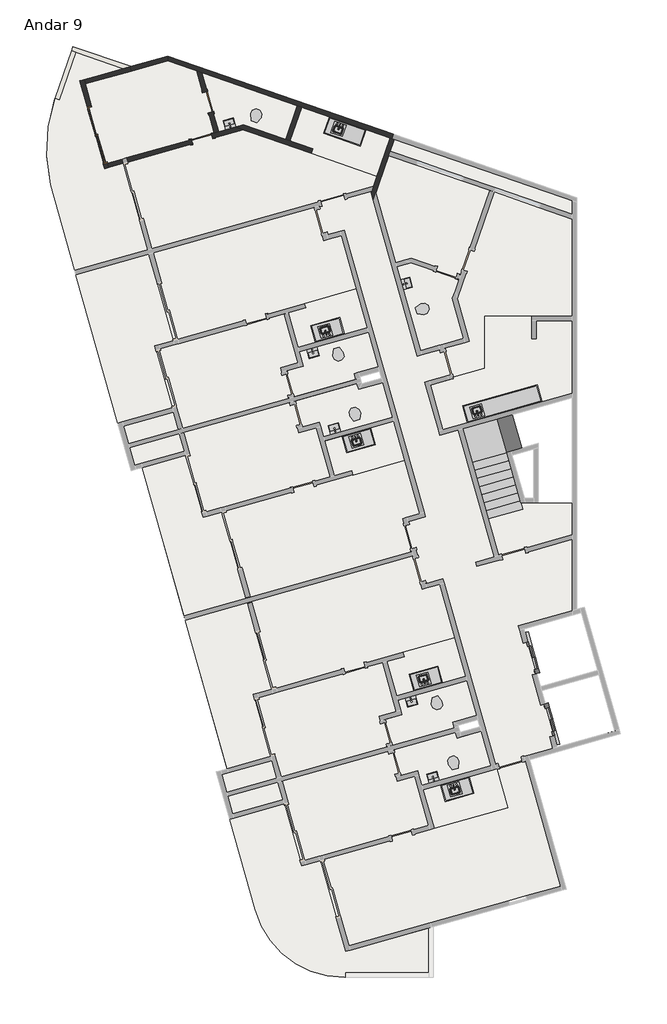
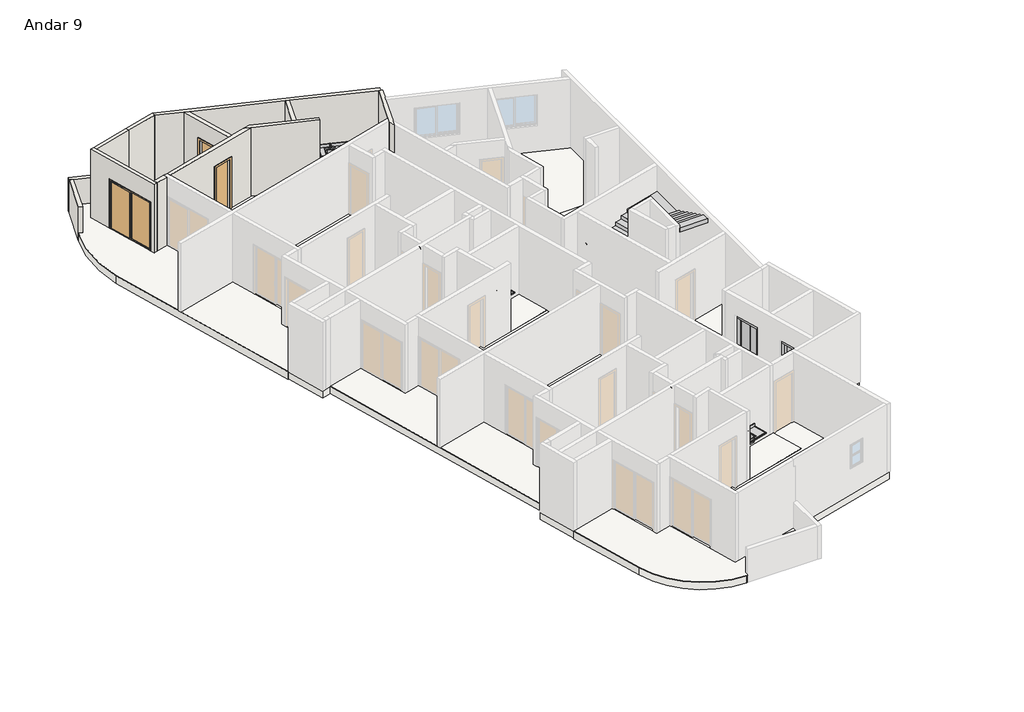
# One storey, part 3 of 3: 18 flow terminals, 18 slabs, 12 walls, 8 proxies, 3 doors, 1 stair flight.
"""IFC4 building model written with IfcOpenShell, lengths in millimetres."""

from ifc_helpers import new_model, si_unit, point, frame, frame_2d, origin, place, context, project, spatial, polyline, circle_curve, trimmed, segment, composite_curve, outline, extrude, faceted_brep, transform, mapped, element, save
from components import specialty_equipment_6c35da8b, specialty_equipment_77dfa124, rf_bancada_cozinha_rf_bancada_cozinha_340fef9f, rf_bancada_cozinha_rf_bancada_cozinha_cfb88ba1, rf_bancada_cozinha_rf_bancada_cozinha_2f873929, rf_bancada_cozinha_rf_bancada_cozinha_798ceddf, p3_70cm_ef4d15e3, p3_70cm_0a698c7c, p4_correr_200cm_eaaa0877, flow_terminal_cab7bae2, flow_terminal_3fb7dc42, flow_terminal_e42b9071, flow_terminal_c6e042c4, ap_01_creme_cr37_13e02e03, ap_01_creme_cr37_5ce6e54d

model = new_model("IFC4")

# Units and contexts
model_context = context("Model", 3, world=origin())
ifc_project = project(units=[si_unit("LENGTHUNIT", "METRE", prefix="MILLI")], contexts=[model_context])

# Site, building, storey
site = spatial("IfcSite", under=ifc_project)
building = spatial("IfcBuilding", under=site)
storey = spatial("IfcBuildingStorey", under=building, Name="Andar 9", Elevation=76850.0)

# Proxies
placement = place(None, origin())
specialty_equipment_shape = specialty_equipment_6c35da8b(model_context)
element("IfcBuildingElementProxy", 1, Name="Porta do elevador : Porta do elevador", ObjectType="Porta do elevador : Porta do elevador", at=placement, inside=storey, context=model_context, shape_type="MappedRepresentation", body=[
    mapped(specialty_equipment_shape, transform((-76594.4337486, 15747.4543727, 76850.0), x_axis=(0.27176796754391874, -0.9623628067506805, 0.0), y_axis=(0.9623628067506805, 0.27176796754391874, 0.0), z_axis=(0.0, 0.0, 1.0))),
])
specialty_equipment_2_shape = specialty_equipment_77dfa124(model_context)
element("IfcBuildingElementProxy", 2, Name="Porta do elevador : Porta do elevador", ObjectType="Porta do elevador : Porta do elevador", at=placement, inside=storey, context=model_context, shape_type="MappedRepresentation", body=[
    mapped(specialty_equipment_2_shape, transform((-75942.1906265, 13437.7836365, 76850.0), x_axis=(-0.27176796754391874, 0.9623628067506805, 0.0), y_axis=(-0.9623628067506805, -0.27176796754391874, 0.0), z_axis=(0.0, 0.0, 1.0))),
])
rf_bancada_cozinha_rf_bancada_cozinha_shape = rf_bancada_cozinha_rf_bancada_cozinha_340fef9f(model_context)
element("IfcBuildingElementProxy", 3, Name="RF_Bancada Cozinha : RF_Bancada Cozinha", ObjectType="RF_Bancada Cozinha : RF_Bancada Cozinha", at=placement, inside=storey, context=model_context, shape_type="MappedRepresentation", body=[
    mapped(rf_bancada_cozinha_rf_bancada_cozinha_shape, transform((-82760.548019, 26451.5820971, 77600.0), x_axis=(-0.9623628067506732, -0.27176796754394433, 0.0), y_axis=(0.27176796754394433, -0.9623628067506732, 0.0), z_axis=(0.0, 0.0, 1.0))),
])
element("IfcBuildingElementProxy", 4, Name="RF_Bancada Cozinha : RF_Bancada Cozinha", ObjectType="RF_Bancada Cozinha : RF_Bancada Cozinha", at=placement, inside=storey, context=model_context, shape_type="MappedRepresentation", body=[
    mapped(rf_bancada_cozinha_rf_bancada_cozinha_shape, transform((-79472.1556117, 14806.9921354, 77600.0), x_axis=(-0.962362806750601, -0.2717679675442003, 0.0), y_axis=(0.2717679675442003, -0.962362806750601, 0.0), z_axis=(0.0, 0.0, 1.0))),
])
rf_bancada_cozinha_rf_bancada_cozinha_2_shape = rf_bancada_cozinha_rf_bancada_cozinha_cfb88ba1(model_context)
element("IfcBuildingElementProxy", 5, Name="RF_Bancada Cozinha : RF_Bancada Cozinha", ObjectType="RF_Bancada Cozinha : RF_Bancada Cozinha", at=placement, inside=storey, context=model_context, shape_type="MappedRepresentation", body=[
    mapped(rf_bancada_cozinha_rf_bancada_cozinha_2_shape, transform((-81877.3021245, 23323.9029751, 77600.0), x_axis=(-0.9623628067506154, -0.27176796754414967, 0.0), y_axis=(0.27176796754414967, -0.9623628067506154, 0.0), z_axis=(0.0, 0.0, 1.0))),
])
element("IfcBuildingElementProxy", 6, Name="RF_Bancada Cozinha : RF_Bancada Cozinha", ObjectType="RF_Bancada Cozinha : RF_Bancada Cozinha", at=placement, inside=storey, context=model_context, shape_type="MappedRepresentation", body=[
    mapped(rf_bancada_cozinha_rf_bancada_cozinha_2_shape, transform((-78588.9097172, 11679.3130134, 77600.0), x_axis=(-0.9623628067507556, -0.27176796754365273, 0.0), y_axis=(0.27176796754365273, -0.9623628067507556, 0.0), z_axis=(0.0, 0.0, 1.0))),
])
rf_bancada_cozinha_rf_bancada_cozinha_3_shape = rf_bancada_cozinha_rf_bancada_cozinha_2f873929(model_context)
element("IfcBuildingElementProxy", 7, Name="RF_Bancada Cozinha : RF_Bancada Cozinha", ObjectType="RF_Bancada Cozinha : RF_Bancada Cozinha", at=placement, inside=storey, context=model_context, shape_type="MappedRepresentation", body=[
    mapped(rf_bancada_cozinha_rf_bancada_cozinha_3_shape, transform((-82030.0326121, 33293.9830661, 77600.0), x_axis=(-0.9449109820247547, 0.32732741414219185, 0.0), y_axis=(-0.32732741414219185, -0.9449109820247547, 0.0), z_axis=(0.0, 0.0, 1.0))),
])
rf_bancada_cozinha_rf_bancada_cozinha_4_shape = rf_bancada_cozinha_rf_bancada_cozinha_798ceddf(model_context)
element("IfcBuildingElementProxy", 8, Name="RF_Bancada Cozinha : RF_Bancada Cozinha", ObjectType="RF_Bancada Cozinha : RF_Bancada Cozinha", at=placement, inside=storey, context=model_context, shape_type="MappedRepresentation", body=[
    mapped(rf_bancada_cozinha_rf_bancada_cozinha_4_shape, transform((-76157.6622331, 24197.9763092, 77600.0), x_axis=(-0.9623628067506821, -0.27176796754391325, 0.0), y_axis=(0.27176796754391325, -0.9623628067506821, 0.0), z_axis=(0.0, 0.0, 1.0))),
])

# Doors
p3_70cm_shape = p3_70cm_ef4d15e3(model_context)
element("IfcDoor", 9, ObjectType="M_Folha única1 : P3 - 70CM", at=placement, inside=storey, context=model_context, shape_type="MappedRepresentation", body=[
    mapped(p3_70cm_shape, transform((-87513.806232, 32980.5300491, 76850.0), x_axis=(0.9623628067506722, 0.2717679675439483, 0.0), y_axis=(-0.2717679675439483, 0.9623628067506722, 0.0), z_axis=(0.0, 0.0, 1.0))),
])
p3_70cm_2_shape = p3_70cm_0a698c7c(model_context)
element("IfcDoor", 10, ObjectType="M_Folha única1 : P3 - 70CM", at=placement, inside=storey, context=model_context, shape_type="MappedRepresentation", body=[
    mapped(p3_70cm_2_shape, transform((-87314.304722, 34205.8663896, 76850.0), x_axis=(-0.2717679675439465, 0.9623628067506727, 0.0), y_axis=(-0.9623628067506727, -0.2717679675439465, 0.0), z_axis=(0.0, 0.0, 1.0))),
])
p4_correr_200cm_shape = p4_correr_200cm_eaaa0877(model_context)
element("IfcDoor", 11, ObjectType="Porta de correr dupla envidraçada sem revestimento : P4 - CORRER - 200CM", at=placement, inside=storey, context=model_context, shape_type="MappedRepresentation", body=[
    mapped(p4_correr_200cm_shape, transform((-91005.8131296, 33111.4415743, 76850.0), x_axis=(0.2717679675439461, -0.9623628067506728, 0.0), y_axis=(0.9623628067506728, 0.2717679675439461, 0.0), z_axis=(0.0, 0.0, 1.0))),
])

# Flow terminals
flow_terminal_shape = flow_terminal_cab7bae2(model_context)
element("IfcFlowTerminal", 12, ObjectType="RF_Pias : Pia da Bancada", at=placement, inside=storey, context=model_context, shape_type="MappedRepresentation", body=[
    mapped(flow_terminal_shape, transform((-83380.5102831, 26570.4992214, 76702.9), x_axis=(-0.9623628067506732, -0.27176796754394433, 0.0), y_axis=(0.27176796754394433, -0.9623628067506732, 0.0), z_axis=(0.0, 0.0, 1.0))),
])
element("IfcFlowTerminal", 13, ObjectType="RF_Pias : Pia da Bancada", at=placement, inside=storey, context=model_context, shape_type="MappedRepresentation", body=[
    mapped(flow_terminal_shape, transform((-80092.1178758, 14925.9092597, 76702.9), x_axis=(-0.962362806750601, -0.2717679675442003, 0.0), y_axis=(0.2717679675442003, -0.962362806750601, 0.0), z_axis=(0.0, 0.0, 1.0))),
])
element("IfcFlowTerminal", 14, ObjectType="RF_Pias : Pia da Bancada", at=placement, inside=storey, context=model_context, shape_type="MappedRepresentation", body=[
    mapped(flow_terminal_shape, transform((-78306.8185143, 23885.0542694, 76702.9), x_axis=(-0.9623628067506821, -0.27176796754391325, 0.0), y_axis=(0.27176796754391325, -0.9623628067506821, 0.0), z_axis=(0.0, 0.0, 1.0))),
])
flow_terminal_2_shape = flow_terminal_3fb7dc42(model_context)
element("IfcFlowTerminal", 15, ObjectType="Deca_Cuba de Apoio Retangular_L7300 : L.7300.17_Branco Gelo GE17", at=placement, inside=storey, context=model_context, shape_type="MappedRepresentation", body=[
    mapped(flow_terminal_2_shape, transform((-83090.0822283, 23308.7374016, 77600.0), x_axis=(-0.9623628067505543, -0.2717679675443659, 0.0), y_axis=(0.2717679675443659, -0.9623628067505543, 0.0), z_axis=(0.0, 0.0, 1.0))),
])
element("IfcFlowTerminal", 16, ObjectType="Deca_Cuba de Apoio Retangular_L7300 : L.7300.17_Branco Gelo GE17", at=placement, inside=storey, context=model_context, shape_type="MappedRepresentation", body=[
    mapped(flow_terminal_2_shape, transform((-79801.689821, 11664.1474399, 77600.0), x_axis=(-0.9623628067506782, -0.2717679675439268, 0.0), y_axis=(0.2717679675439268, -0.9623628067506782, 0.0), z_axis=(0.0, 0.0, 1.0))),
])
element("IfcFlowTerminal", 17, ObjectType="Deca_Cuba de Apoio Retangular_L7300 : L.7300.17_Branco Gelo GE17", at=placement, inside=storey, context=model_context, shape_type="MappedRepresentation", body=[
    mapped(flow_terminal_2_shape, transform((-80677.0991462, 28154.8020678, 77600.0), x_axis=(-0.2717679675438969, 0.9623628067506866, 0.0), y_axis=(-0.9623628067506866, -0.2717679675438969, 0.0), z_axis=(0.0, 0.0, 1.0))),
])
element("IfcFlowTerminal", 18, ObjectType="Deca_Cuba de Apoio Retangular_L7300 : L.7300.17_Branco Gelo GE17", at=placement, inside=storey, context=model_context, shape_type="MappedRepresentation", body=[
    mapped(flow_terminal_2_shape, transform((-86597.4204814, 33488.7004496, 77600.0), x_axis=(-0.9623628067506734, -0.27176796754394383, 0.0), y_axis=(0.27176796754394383, -0.9623628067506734, 0.0), z_axis=(0.0, 0.0, 1.0))),
])
flow_terminal_3_shape = flow_terminal_e42b9071(model_context)
element("IfcFlowTerminal", 19, ObjectType="Deca_Cuba de Apoio Retangular_L7300 : L.7300.17_Branco Gelo GE17", at=placement, inside=storey, context=model_context, shape_type="MappedRepresentation", body=[
    mapped(flow_terminal_3_shape, transform((-83802.1143033, 25830.1279553, 77600.0), x_axis=(-0.9623628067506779, -0.2717679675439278, 0.0), y_axis=(0.2717679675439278, -0.9623628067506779, 0.0), z_axis=(0.0, 0.0, 1.0))),
])
element("IfcFlowTerminal", 20, ObjectType="Deca_Cuba de Apoio Retangular_L7300 : L.7300.17_Branco Gelo GE17", at=placement, inside=storey, context=model_context, shape_type="MappedRepresentation", body=[
    mapped(flow_terminal_3_shape, transform((-80513.721896, 14185.5379936, 77600.0), x_axis=(-0.962362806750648, -0.27176796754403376, 0.0), y_axis=(0.27176796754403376, -0.962362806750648, 0.0), z_axis=(0.0, 0.0, 1.0))),
])
flow_terminal_4_shape = flow_terminal_c6e042c4(model_context)
element("IfcFlowTerminal", 21, ObjectType="RF_Pias : Pia da Bancada", at=placement, inside=storey, context=model_context, shape_type="MappedRepresentation", body=[
    mapped(flow_terminal_4_shape, transform((-82343.483233, 22898.2626745, 76702.9), x_axis=(-0.9623628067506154, -0.27176796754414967, 0.0), y_axis=(0.27176796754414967, -0.9623628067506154, 0.0), z_axis=(0.0, 0.0, 1.0))),
])
element("IfcFlowTerminal", 22, ObjectType="RF_Pias : Pia da Bancada", at=placement, inside=storey, context=model_context, shape_type="MappedRepresentation", body=[
    mapped(flow_terminal_4_shape, transform((-79055.0908257, 11253.6727129, 76702.9), x_axis=(-0.9623628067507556, -0.27176796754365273, 0.0), y_axis=(0.27176796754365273, -0.9623628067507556, 0.0), z_axis=(0.0, 0.0, 1.0))),
])
element("IfcFlowTerminal", 23, ObjectType="RF_Pias : Pia da Bancada", at=placement, inside=storey, context=model_context, shape_type="MappedRepresentation", body=[
    mapped(flow_terminal_4_shape, transform((-82939.3392028, 33309.5545572, 76702.9), x_axis=(-0.9449109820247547, 0.32732741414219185, 0.0), y_axis=(-0.32732741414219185, -0.9449109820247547, 0.0), z_axis=(0.0, 0.0, 1.0))),
])
ap_01_creme_cr37_shape = ap_01_creme_cr37_13e02e03(model_context)
element("IfcFlowTerminal", 24, ObjectType="Deca_Shared_Assento_P.900 : AP.01_Creme CR37", at=placement, inside=storey, context=model_context, shape_type="MappedRepresentation", body=[
    mapped(ap_01_creme_cr37_shape, transform((-83017.5301151, 25983.4740486, 77237.8723674), x_axis=(0.9623628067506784, 0.2717679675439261, 0.0), y_axis=(0.0, 0.0, 1.0), z_axis=(0.2717679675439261, -0.9623628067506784, 0.0))),
])
element("IfcFlowTerminal", 25, ObjectType="Deca_Shared_Assento_P.900 : AP.01_Creme CR37", at=placement, inside=storey, context=model_context, shape_type="MappedRepresentation", body=[
    mapped(ap_01_creme_cr37_shape, transform((-79729.1377078, 14338.8840869, 77237.8723674), x_axis=(0.962362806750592, 0.2717679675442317, 0.0), y_axis=(0.0, 0.0, 1.0), z_axis=(0.2717679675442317, -0.962362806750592, 0.0))),
])
element("IfcFlowTerminal", 26, ObjectType="Deca_Shared_Assento_P.900 : AP.01_Creme CR37", at=placement, inside=storey, context=model_context, shape_type="MappedRepresentation", body=[
    mapped(ap_01_creme_cr37_shape, transform((-80349.5164684, 27236.3600819, 77237.8723674), x_axis=(-0.271767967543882, 0.9623628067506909, 0.0), y_axis=(0.0, 0.0, 1.0), z_axis=(0.9623628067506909, 0.271767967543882, 0.0))),
])
element("IfcFlowTerminal", 27, ObjectType="Deca_Shared_Assento_P.900 : AP.01_Creme CR37", at=placement, inside=storey, context=model_context, shape_type="MappedRepresentation", body=[
    mapped(ap_01_creme_cr37_shape, transform((-85777.8760768, 33566.4131555, 77237.8723674), x_axis=(-0.9449109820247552, 0.3273274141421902, 0.0), y_axis=(0.0, 0.0, 1.0000000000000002), z_axis=(0.3273274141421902, 0.9449109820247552, 0.0))),
])
ap_01_creme_cr37_2_shape = ap_01_creme_cr37_5ce6e54d(model_context)
element("IfcFlowTerminal", 28, ObjectType="Deca_Shared_Assento_P.900 : AP.01_Creme CR37", at=placement, inside=storey, context=model_context, shape_type="MappedRepresentation", body=[
    mapped(ap_01_creme_cr37_2_shape, transform((-82341.1813229, 23588.4422577, 77237.8723674), x_axis=(0.9623628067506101, 0.27176796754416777, 0.0), y_axis=(0.0, 0.0, -1.0), z_axis=(-0.27176796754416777, 0.9623628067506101, 0.0))),
])
element("IfcFlowTerminal", 29, ObjectType="Deca_Shared_Assento_P.900 : AP.01_Creme CR37", at=placement, inside=storey, context=model_context, shape_type="MappedRepresentation", body=[
    mapped(ap_01_creme_cr37_2_shape, transform((-79052.7889156, 11943.852296, 77237.8723674), x_axis=(0.9623628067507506, 0.2717679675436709, 0.0), y_axis=(0.0, 0.0, -1.0000000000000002), z_axis=(-0.2717679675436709, 0.9623628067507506, 0.0))),
])

# Slabs
element("IfcSlab", 30, ObjectType="TZ_Piso de Áreas Molhadas", at=placement, inside=storey, context=model_context, shape_type="SweptSolid", body=[
    extrude(outline(composite_curve([segment(polyline([(-90765.4571774, 31984.341749), (-90143.7425806, 32159.9118263), (-89328.438678, 29272.823406), (-91766.0080564, 28584.4621444), (-92573.2320087, 31442.9384962)]), True, "CONTINUOUS"), segment(trimmed(circle_curve(frame_2d((-87414.5556743, 32622.5665107)), 5291.829908), [point((-92573.2320087, 31442.9384962))], [point((-92422.0860726, 34333.7366032))], False, "CARTESIAN"), True, "CONTINUOUS"), segment(polyline([(-92422.0860726, 34333.7366032), (-92280.2794148, 34284.6132387), (-91729.7010481, 35873.9929322), (-90151.0501028, 35327.1311202), (-91594.3494784, 34919.5483093), (-90765.4571774, 31984.341749)]), True, "CONTINUOUS")], self_intersect=False)), frame((0.0, 0.0, 76850.0), z_axis=(0.0, 0.0, 1.0), x_axis=(1.0, 0.0, 0.0)), (0.0, 0.0, 1.0), 20.0),
])
element("IfcSlab", 31, ObjectType="TZ_Piso de Áreas Molhadas", at=placement, inside=storey, context=model_context, shape_type="SweptSolid", body=[
    extrude(outline(polyline([(-88472.3695802, 26241.3805647), (-89094.084177, 26065.8104874), (-88509.7830468, 23996.7304529), (-90325.6378284, 23483.9392686), (-91725.2428613, 28440.1077234), (-89287.6734828, 29128.468985), (-88472.3695802, 26241.3805647)])), frame((0.0, 0.0, 76850.0), z_axis=(0.0, 0.0, 1.0), x_axis=(1.0, 0.0, 0.0)), (0.0, 0.0, 1.0), 20.0),
])
element("IfcSlab", 32, ObjectType="TZ_Piso de Áreas Molhadas", at=placement, inside=storey, context=model_context, shape_type="SweptSolid", body=[
    extrude(outline(polyline([(-86855.3501733, 20515.3218645), (-86040.0462707, 17628.2334443), (-88109.1263052, 17043.9323141), (-89508.731338, 22000.1007688), (-88061.3659003, 22408.8318218), (-87477.0647701, 20339.7517872), (-86855.3501733, 20515.3218645)])), frame((0.0, 0.0, 76850.0), z_axis=(0.0, 0.0, 1.0), x_axis=(1.0, 0.0, 0.0)), (0.0, 0.0, 1.0), 20.0),
])
element("IfcSlab", 33, ObjectType="TZ_Piso de Áreas Molhadas", at=placement, inside=storey, context=model_context, shape_type="SweptSolid", body=[
    extrude(outline(polyline([(-78926.5637691, 28284.9851582), (-79146.9727346, 27648.7205404), (-78771.1333302, 26317.8283554), (-80214.6775403, 25910.176404), (-81004.3851492, 28706.6252933), (-80530.2499593, 28840.5194505), (-78926.5637691, 28284.9851582)])), frame((0.0, 0.0, 76850.0), z_axis=(0.0, 0.0, 1.0), x_axis=(1.0, 0.0, 0.0)), (0.0, 0.0, 1.0), 20.0),
])
element("IfcSlab", 34, ObjectType="TZ_Piso de Áreas Molhadas", at=placement, inside=storey, context=model_context, shape_type="SweptSolid", body=[
    extrude(outline(polyline([(-78070.9150345, 27060.8243598), (-76493.6479314, 27060.8243598), (-76493.6479314, 26310.8243598), (-76343.6479314, 26310.8243598), (-76343.6479314, 26910.8243598), (-75147.8282189, 26910.8243598), (-75147.8282189, 24483.4871675), (-79467.3156296, 23263.6786855), (-79888.5559793, 24755.3410359), (-79127.7601479, 24970.1871785), (-79141.3485461, 25018.3053183), (-78070.9150345, 25320.5920836), (-78070.9150345, 27060.8243598)])), frame((0.0, 0.0, 76850.0), z_axis=(0.0, 0.0, 1.0), x_axis=(1.0, 0.0, 0.0)), (0.0, 0.0, 1.0), 20.0),
])
element("IfcSlab", 35, ObjectType="TZ_Piso de Áreas Molhadas", at=placement, inside=storey, context=model_context, shape_type="SweptSolid", body=[
    extrude(outline(polyline([(-84719.4810559, 32955.6762822), (-86137.8721095, 33447.0223292), (-86956.7711455, 33215.7680402), (-87515.4733556, 35194.1992432), (-84326.6881589, 34089.5694606), (-84719.4810559, 32955.6762822)])), frame((0.0, 0.0, 76850.0), z_axis=(0.0, 0.0, 1.0), x_axis=(1.0, 0.0, 0.0)), (0.0, 0.0, 1.0), 20.0),
])
element("IfcSlab", 36, ObjectType="TZ_Piso de Áreas Molhadas", at=placement, inside=storey, context=model_context, shape_type="SweptSolid", body=[
    extrude(outline(polyline([(-84577.7444086, 32906.57717), (-84184.9515116, 34040.4703485), (-81226.8582774, 33015.7547641), (-81668.7502865, 31740.1249383), (-83870.9147351, 32502.9785914), (-83821.815623, 32644.7152387), (-84577.7444086, 32906.57717)])), frame((0.0, 0.0, 76850.0), z_axis=(0.0, 0.0, 1.0), x_axis=(1.0, 0.0, 0.0)), (0.0, 0.0, 1.0), 20.0),
])
element("IfcSlab", 37, ObjectType="TZ_Piso de Áreas Molhadas", at=placement, inside=storey, context=model_context, shape_type="SweptSolid", body=[
    extrude(outline(polyline([(-81949.8925784, 26524.6420501), (-81623.7710174, 25369.806682), (-82432.1557751, 25141.5215893), (-82377.8021816, 24949.0490279), (-84456.5058441, 24362.030218), (-84701.0970149, 25228.1567441), (-84123.6793309, 25391.2175246), (-84259.5633146, 25872.398928), (-81949.8925784, 26524.6420501)])), frame((0.0, 0.0, 76850.0), z_axis=(0.0, 0.0, 1.0), x_axis=(1.0, 0.0, 0.0)), (0.0, 0.0, 1.0), 20.0),
])
element("IfcSlab", 38, ObjectType="TZ_Piso de Áreas Molhadas", at=placement, inside=storey, context=model_context, shape_type="SweptSolid", body=[
    extrude(outline(polyline([(-84089.7975819, 27479.0039186), (-82357.5445298, 27968.1862602), (-81990.6577736, 26668.9964711), (-84300.3285098, 26016.753349), (-84626.4500708, 27171.5887171), (-84049.0323868, 27334.6494976), (-84089.7975819, 27479.0039186)])), frame((0.0, 0.0, 76850.0), z_axis=(0.0, 0.0, 1.0), x_axis=(1.0, 0.0, 0.0)), (0.0, 0.0, 1.0), 20.0),
])
element("IfcSlab", 39, ObjectType="TZ_Piso de Áreas Molhadas", at=placement, inside=storey, context=model_context, shape_type="SweptSolid", body=[
    extrude(outline(polyline([(-84171.1494782, 23351.5492709), (-84415.740649, 24217.675797), (-82337.0369864, 24804.6946069), (-82282.6833929, 24612.2220455), (-81474.2986352, 24840.5071383), (-81148.1770742, 23685.6717702), (-83457.8478104, 23033.4286481), (-83593.7317942, 23514.6100514), (-84171.1494782, 23351.5492709)])), frame((0.0, 0.0, 76850.0), z_axis=(0.0, 0.0, 1.0), x_axis=(1.0, 0.0, 0.0)), (0.0, 0.0, 1.0), 20.0),
])
element("IfcSlab", 40, ObjectType="TZ_Piso de Áreas Molhadas", at=placement, inside=storey, context=model_context, shape_type="SweptSolid", body=[
    extrude(outline(composite_curve([segment(polyline([(-79945.4990038, 5119.4122055), (-82713.5540687, 5119.4122055), (-82713.5540687, 4969.4122055), (-82751.3896972, 4969.4122055)]), True, "CONTINUOUS"), segment(trimmed(circle_curve(frame_2d((-82751.3896972, 8069.4122055)), 3100.0), [point((-82751.3896972, 4969.4122055))], [point((-85734.7143981, 7226.9315061))], False, "CARTESIAN"), True, "CONTINUOUS"), segment(polyline([(-85734.7143981, 7226.9315061), (-86588.8282733, 10251.4506708), (-84772.9735093, 10764.2419177), (-84188.6722855, 8695.1618243), (-83566.957766, 8870.7319029), (-82710.8885369, 5839.2889958), (-79945.4990038, 6620.2256515), (-79945.4990038, 5119.4122055)]), True, "CONTINUOUS")], self_intersect=False)), frame((0.0, 0.0, 76850.0), z_axis=(0.0, 0.0, 1.0), x_axis=(1.0, 0.0, 0.0)), (0.0, 0.0, 1.0), 20.0),
])
element("IfcSlab", 41, ObjectType="TZ_Piso de Áreas Molhadas", at=placement, inside=storey, context=model_context, shape_type="SweptSolid", body=[
    extrude(outline(polyline([(-78185.906228, 13195.9171766), (-77859.7846669, 12041.0818085), (-80169.4554031, 11388.8386864), (-80305.3393869, 11870.0200898), (-80882.7570709, 11706.9593092), (-81127.3482417, 12573.0858353), (-79048.6445791, 13160.1046452), (-78994.2909856, 12967.6320839), (-78185.906228, 13195.9171766)])), frame((0.0, 0.0, 76850.0), z_axis=(0.0, 0.0, 1.0), x_axis=(1.0, 0.0, 0.0)), (0.0, 0.0, 1.0), 20.0),
])
element("IfcSlab", 42, ObjectType="TZ_Piso de Áreas Molhadas", at=placement, inside=storey, context=model_context, shape_type="SweptSolid", body=[
    extrude(outline(polyline([(-77307.7782946, 10638.3027935), (-79761.8034518, 9945.2944763), (-80128.690208, 11244.4842654), (-77674.6650508, 11937.4925826), (-77307.7782946, 10638.3027935)])), frame((0.0, 0.0, 76850.0), z_axis=(0.0, 0.0, 1.0), x_axis=(1.0, 0.0, 0.0)), (0.0, 0.0, 1.0), 20.0),
])
element("IfcSlab", 43, ObjectType="TZ_Piso de Áreas Molhadas", at=placement, inside=storey, context=model_context, shape_type="SweptSolid", body=[
    extrude(outline(polyline([(-81107.9410005, 23543.1910314), (-80740.5251229, 22242.1275601), (-82472.778175, 21752.9452185), (-82513.5433702, 21897.2996395), (-83090.9610542, 21734.238859), (-83418.0192411, 22888.8089065), (-81107.9410005, 23543.1910314)])), frame((0.0, 0.0, 76850.0), z_axis=(0.0, 0.0, 1.0), x_axis=(1.0, 0.0, 0.0)), (0.0, 0.0, 1.0), 20.0),
])
element("IfcSlab", 44, ObjectType="TZ_Piso de Áreas Molhadas", at=placement, inside=storey, context=model_context, shape_type="SweptSolid", body=[
    extrude(outline(polyline([(-85183.9771729, 14596.790603), (-85805.6917697, 14421.2205257), (-85221.3906395, 12352.1404912), (-86668.7560772, 11943.4094383), (-88068.36111, 16899.5778931), (-85999.2810755, 17483.8790233), (-85183.9771729, 14596.790603)])), frame((0.0, 0.0, 76850.0), z_axis=(0.0, 0.0, 1.0), x_axis=(1.0, 0.0, 0.0)), (0.0, 0.0, 1.0), 20.0),
])
element("IfcSlab", 45, ObjectType="TZ_Piso de Áreas Molhadas", at=placement, inside=storey, context=model_context, shape_type="SweptSolid", body=[
    extrude(outline(polyline([(-81412.7046076, 13583.5667824), (-80835.2869236, 13746.6275629), (-80971.1709074, 14227.8089663), (-78661.5001712, 14880.0520884), (-78335.3786101, 13725.2167203), (-79143.7633678, 13496.9316276), (-79089.4097743, 13304.4590662), (-81168.1134368, 12717.4402563), (-81412.7046076, 13583.5667824)])), frame((0.0, 0.0, 76850.0), z_axis=(0.0, 0.0, 1.0), x_axis=(1.0, 0.0, 0.0)), (0.0, 0.0, 1.0), 20.0),
])
element("IfcSlab", 46, ObjectType="TZ_Piso de Áreas Molhadas", at=placement, inside=storey, context=model_context, shape_type="SweptSolid", body=[
    extrude(outline(polyline([(-78701.7362448, 15022.5328272), (-81012.8731576, 14371.8995868), (-81338.0576635, 15526.9987554), (-80760.6399795, 15690.059536), (-80801.4051746, 15834.413957), (-79069.1521225, 16323.5962985), (-78701.7362448, 15022.5328272)])), frame((0.0, 0.0, 76850.0), z_axis=(0.0, 0.0, 1.0), x_axis=(1.0, 0.0, 0.0)), (0.0, 0.0, 1.0), 20.0),
])
element("IfcSlab", 47, ObjectType="TZ_Laje 30cm", at=placement, inside=storey, context=model_context, shape_type="SweptSolid", body=[
    extrude(outline(composite_curve([segment(polyline([(-82713.5540687, 4969.4122055), (-82751.3896972, 4969.4122055)]), True, "CONTINUOUS"), segment(trimmed(circle_curve(frame_2d((-82751.3896972, 8069.4122055)), 3100.0), [point((-82751.3896972, 4969.4122055))], [point((-85734.7143981, 7226.9315061))], False, "CARTESIAN"), True, "CONTINUOUS"), segment(polyline([(-85734.7143981, 7226.9315061), (-86588.8282747, 10251.4506758), (-86574.3928326, 10255.5271953), (-87018.7334595, 11828.9903844), (-86664.6795577, 11928.9739962), (-89512.8078575, 22014.5362109), (-89866.8617594, 21914.5525991), (-90311.2023863, 23488.0157882), (-90325.6378284, 23483.9392686), (-92573.2320087, 31442.9384962)]), True, "CONTINUOUS"), segment(trimmed(circle_curve(frame_2d((-87414.5556743, 32622.5665107)), 5291.829908), [point((-92573.2320087, 31442.9384962))], [point((-92426.4466323, 34320.9224218))], False, "CARTESIAN"), True, "CONTINUOUS"), segment(polyline([(-92426.4466323, 34320.9224218), (-92422.0160621, 34333.7123509), (-92403.1178425, 34327.1658026), (-91809.986912, 36039.3839237), (-89899.2062586, 35377.468778), (-88658.6666899, 35727.7929124), (-75017.8282189, 31002.4584964), (-75017.8282189, 17238.3098681), (-74750.7083414, 17313.7436086), (-73565.8000029, 13117.8417711), (-76592.4310301, 12263.1315132), (-75369.6745845, 7933.2050117), (-79815.4990038, 6677.7193903), (-79815.4990038, 4989.4122055), (-82713.5540687, 4989.4122055), (-82713.5540687, 4969.4122055)]), True, "CONTINUOUS")], self_intersect=False), holes=[polyline([(-81583.0058223, 25225.452261), (-82247.0361589, 25037.9323634), (-82179.094167, 24797.3416617), (-81515.0638304, 24984.8615593), (-81583.0058223, 25225.452261)]), polyline([(-78294.613415, 13580.8622993), (-78958.6437516, 13393.3424017), (-78890.7017597, 13152.7517), (-78226.6714231, 13340.2715976), (-78294.613415, 13580.8622993)]), polyline([(-74840.4856705, 17153.3066079), (-76760.3994699, 16611.1295126), (-76221.8794944, 14704.1660107), (-75646.150803, 12665.442005), (-73726.2370035, 13207.6191002), (-74270.7319215, 15135.7405865), (-74840.4856705, 17153.3066079)]), polyline([(-77952.9130698, 20291.1915783), (-76801.2963825, 20616.4041949), (-76858.5413412, 20819.1154254), (-75147.8282189, 20819.1154254), (-75147.8282189, 24343.0530162), (-78807.9060206, 23309.4595541), (-77952.9130698, 20291.1915783)])]), frame((0.0, 0.0, 76550.0), z_axis=(0.0, 0.0, 1.0), x_axis=(1.0, 0.0, 0.0)), (0.0, 0.0, 1.0), 300.0),
])

# Stair flight
element("IfcStairFlight", 48, ObjectType="Profundidade de 150mm", at=placement, inside=storey, context=model_context, shape_type="Brep", body=[
    faceted_brep([(-78029.0944782, 20560.1246789, 76988.0952381), (-77952.7808761, 20290.7249124, 76988.0952381), (-76802.2714069, 20616.6328483, 76988.0952381), (-76878.3664628, 20886.0945229, 76988.0952381), (-78029.0944782, 20560.1246789, 76850.0), (-77952.7808761, 20290.7249124, 76850.0), (-76802.2714069, 20616.6328483, 76850.0), (-76878.3664628, 20886.0945229, 76850.0), (-78105.4080802, 20829.5244453, 77126.1904762), (-78029.0944782, 20560.1246789, 77126.1904762), (-76878.3664628, 20886.0945229, 77126.1904762), (-76954.4615188, 21155.5561975, 77126.1904762), (-78105.4080802, 20829.5244453, 76958.939228), (-78045.2065482, 20617.0029783, 76850.0), (-76894.4323913, 20942.985893, 76850.0), (-76954.4615188, 21155.5561975, 76958.939228), (-78181.7216823, 21098.9242117, 77264.2857143), (-78105.4080802, 20829.5244453, 77264.2857143), (-76954.4615188, 21155.5561975, 77264.2857143), (-77030.5565747, 21425.017872, 77264.2857143), (-78181.7216823, 21098.9242117, 77097.0344661), (-77030.5565747, 21425.017872, 77097.0344661), (-78258.0352843, 21368.3239781, 77402.3809524), (-78181.7216823, 21098.9242117, 77402.3809524), (-77030.5565747, 21425.017872, 77402.3809524), (-77106.6516307, 21694.4795466, 77402.3809524), (-78258.0352843, 21368.3239781, 77235.1297042), (-77106.6516307, 21694.4795466, 77235.1297042), (-78334.3488864, 21637.7237445, 77540.4761905), (-78258.0352843, 21368.3239781, 77540.4761905), (-77106.6516307, 21694.4795466, 77540.4761905), (-77182.7466866, 21963.9412211, 77540.4761905), (-78334.3488864, 21637.7237445, 77373.2249423), (-77182.7466866, 21963.9412211, 77373.2249423), (-78410.6624885, 21907.1235109, 77678.5714286), (-78334.3488864, 21637.7237445, 77678.5714286), (-77182.7466866, 21963.9412211, 77678.5714286), (-77258.8417426, 22233.4028957, 77678.5714286), (-78410.6624885, 21907.1235109, 77511.3201804), (-77258.8417426, 22233.4028957, 77511.3201804), (-78486.9760905, 22176.5232773, 77816.6666667), (-78410.6624885, 21907.1235109, 77816.6666667), (-77258.8417426, 22233.4028957, 77816.6666667), (-77334.9367985, 22502.8645702, 77816.6666667), (-78486.9760905, 22176.5232773, 77649.4154185), (-77334.9367985, 22502.8645702, 77649.4154185), (-77650.6473278, 23620.8332322, 77954.7619048), (-78803.8582924, 23295.1703972, 77954.7619048), (-78572.8230038, 22479.5772253, 77954.7619048), (-78486.9760905, 22176.5232773, 77954.7619048), (-77334.9367985, 22502.8645702, 77954.7619048), (-77337.6544782, 22512.4881983, 77954.7619048), (-77650.6473278, 23620.8332322, 77804.7619048), (-78803.8582924, 23295.1703972, 77804.7619048), (-78572.8230038, 22479.5772253, 77804.7619048), (-77420.5378643, 22805.9881601, 77804.7619048), (-77337.6544782, 22512.4881983, 77804.7619048), (-77650.6473278, 23620.8332322, 78092.8571429), (-77337.6544782, 22512.4881983, 78092.8571429), (-77303.5536842, 22522.118146, 78092.8571429), (-77083.6709973, 22584.2122653, 78092.8571429), (-77396.6638468, 23692.5572992, 78092.8571429), (-77616.5465338, 23630.4631799, 78092.8571429), (-77396.6638468, 23692.5572992, 77919.0904432), (-77616.5465338, 23630.4631799, 77804.7619048), (-77303.5536842, 22522.118146, 77804.7619048), (-77083.6709973, 22584.2122653, 77919.0904432), (-77127.202261, 23768.6523301, 78230.952381), (-77396.6638468, 23692.5572992, 78230.952381), (-77083.6709973, 22584.2122653, 78230.952381), (-76814.2094114, 22660.3072962, 78230.952381), (-77127.202261, 23768.6523301, 78059.1976509), (-76814.2094114, 22660.3072962, 78059.1976509), (-76857.7406751, 23844.747361, 78369.047619), (-77127.202261, 23768.6523301, 78369.047619), (-76814.2094114, 22660.3072962, 78369.047619), (-76544.7478255, 22736.4023271, 78369.047619), (-76857.7406751, 23844.747361, 78199.3048586), (-76544.7478255, 22736.4023271, 78199.3048586), (-76588.2790892, 23920.842392, 78507.1428571), (-76857.7406751, 23844.747361, 78507.1428571), (-76544.7478255, 22736.4023271, 78507.1428571), (-76275.2862396, 22812.497358, 78507.1428571), (-76588.2790892, 23920.842392, 78339.4120663), (-75975.593386, 22897.1295956, 78495.2380952), (-76275.2862396, 22812.497358, 78495.2380952), (-75147.8282189, 22779.1154254, 78645.2380952), (-75147.8282189, 24327.6207947, 78645.2380952), (-76288.5862355, 24005.4746296, 78645.2380952), (-76588.2790892, 23920.842392, 78645.2380952), (-76275.2862396, 22812.497358, 78645.2380952), (-76275.2862396, 22779.1154254, 78645.2380952), (-75147.8282189, 22779.1154254, 78495.2380952), (-75147.8282189, 24327.6207947, 78495.2380952), (-76288.5862355, 24005.4746296, 78495.2380952), (-76275.2862396, 22779.1154254, 78495.2380952), (-75147.8282189, 22779.1154254, 78783.3333333), (-76275.2862396, 22779.1154254, 78783.3333333), (-76275.2862396, 22744.1370326, 78783.3333333), (-76275.2862396, 22499.1154254, 78783.3333333), (-75147.8282189, 22499.1154254, 78783.3333333), (-75147.8282189, 22744.1370326, 78783.3333333), (-75147.8282189, 22499.1154254, 78616.0820852), (-75147.8282189, 22744.1370326, 78495.2380952), (-76275.2862396, 22744.1370326, 78495.2380952), (-76275.2862396, 22499.1154254, 78616.0820852), (-75147.8282189, 22219.1154254, 78921.4285714), (-75147.8282189, 22499.1154254, 78921.4285714), (-76275.2862396, 22499.1154254, 78921.4285714), (-76275.2862396, 22219.1154254, 78921.4285714), (-75147.8282189, 22219.1154254, 78754.1773233), (-76275.2862396, 22219.1154254, 78754.1773233), (-75147.8282189, 21939.1154254, 79059.5238095), (-75147.8282189, 22219.1154254, 79059.5238095), (-76275.2862396, 22219.1154254, 79059.5238095), (-76275.2862396, 21939.1154254, 79059.5238095), (-75147.8282189, 21939.1154254, 78892.2725614), (-76275.2862396, 21939.1154254, 78892.2725614), (-75147.8282189, 21659.1154254, 79197.6190476), (-75147.8282189, 21939.1154254, 79197.6190476), (-76275.2862396, 21939.1154254, 79197.6190476), (-76275.2862396, 21659.1154254, 79197.6190476), (-75147.8282189, 21659.1154254, 79030.3677995), (-76275.2862396, 21659.1154254, 79030.3677995), (-75147.8282189, 21379.1154254, 79335.7142857), (-75147.8282189, 21659.1154254, 79335.7142857), (-76275.2862396, 21659.1154254, 79335.7142857), (-76275.2862396, 21379.1154254, 79335.7142857), (-75147.8282189, 21379.1154254, 79168.4630376), (-76275.2862396, 21379.1154254, 79168.4630376), (-75147.8282189, 21099.1154254, 79473.8095238), (-75147.8282189, 21379.1154254, 79473.8095238), (-76275.2862396, 21379.1154254, 79473.8095238), (-76275.2862396, 21099.1154254, 79473.8095238), (-75147.8282189, 21099.1154254, 79306.5582757), (-76275.2862396, 21099.1154254, 79306.5582757), (-75147.8282189, 20819.1154254, 79611.9047619), (-75147.8282189, 21099.1154254, 79611.9047619), (-76275.2862396, 21099.1154254, 79611.9047619), (-76275.2862396, 20819.1154254, 79611.9047619), (-75147.8282189, 20819.1154254, 79444.6535138), (-76275.2862396, 20819.1154254, 79444.6535138), (-76275.2862396, 23958.3777566, 78495.2380952)], [[[0, 1, 2, 3]], [[1, 0, 4, 5]], [[2, 1, 5, 6]], [[3, 2, 6, 7]], [[8, 9, 10, 11]], [[4, 0, 9, 8, 12, 13]], [[0, 3, 10, 9]], [[3, 7, 14, 15, 11, 10]], [[16, 17, 18, 19]], [[17, 16, 20, 12, 8]], [[8, 11, 18, 17]], [[19, 18, 11, 15, 21]], [[22, 23, 24, 25]], [[23, 22, 26, 20, 16]], [[16, 19, 24, 23]], [[25, 24, 19, 21, 27]], [[28, 29, 30, 31]], [[29, 28, 32, 26, 22]], [[22, 25, 30, 29]], [[31, 30, 25, 27, 33]], [[34, 35, 36, 37]], [[35, 34, 38, 32, 28]], [[28, 31, 36, 35]], [[37, 36, 31, 33, 39]], [[40, 41, 42, 43]], [[41, 40, 44, 38, 34]], [[34, 37, 42, 41]], [[43, 42, 37, 39, 45]], [[46, 47, 48, 49, 50, 51]], [[47, 46, 52, 53]], [[40, 49, 48, 47, 53, 54, 44]], [[40, 43, 50, 49]], [[51, 50, 43, 45, 55, 56]], [[57, 58, 59, 60, 61, 62]], [[46, 57, 62, 61, 63, 64, 52]], [[46, 51, 58, 57]], [[58, 51, 56, 65, 66, 60, 59]], [[67, 68, 69, 70]], [[68, 67, 71, 63, 61]], [[61, 60, 69, 68]], [[70, 69, 60, 66, 72]], [[73, 74, 75, 76]], [[74, 73, 77, 71, 67]], [[67, 70, 75, 74]], [[76, 75, 70, 72, 78]], [[79, 80, 81, 82]], [[80, 79, 83, 77, 73]], [[73, 76, 81, 80]], [[82, 81, 76, 78, 84, 85]], [[86, 87, 88, 89, 90, 91]], [[87, 86, 92, 93]], [[79, 89, 88, 87, 93, 94, 83]], [[79, 82, 90, 89]], [[91, 90, 82, 85, 95]], [[96, 97, 98, 99, 100, 101]], [[86, 96, 101, 100, 102, 103, 92]], [[86, 91, 97, 96]], [[97, 91, 95, 104, 105, 99, 98]], [[106, 107, 108, 109]], [[107, 106, 110, 102, 100]], [[100, 99, 108, 107]], [[109, 108, 99, 105, 111]], [[112, 113, 114, 115]], [[113, 112, 116, 110, 106]], [[106, 109, 114, 113]], [[115, 114, 109, 111, 117]], [[118, 119, 120, 121]], [[119, 118, 122, 116, 112]], [[112, 115, 120, 119]], [[121, 120, 115, 117, 123]], [[124, 125, 126, 127]], [[125, 124, 128, 122, 118]], [[118, 121, 126, 125]], [[127, 126, 121, 123, 129]], [[130, 131, 132, 133]], [[131, 130, 134, 128, 124]], [[124, 127, 132, 131]], [[133, 132, 127, 129, 135]], [[136, 137, 138, 139]], [[137, 136, 140, 134, 130]], [[130, 133, 138, 137]], [[139, 138, 133, 135, 141]], [[136, 139, 141, 140]], [[5, 4, 13, 14, 7, 6]], [[54, 55, 45, 39, 33, 27, 21, 15, 14, 13, 12, 20, 26, 32, 38, 44]], [[55, 54, 53, 52, 64, 65, 56]], [[65, 64, 63, 71, 77, 83, 94, 142, 84, 78, 72, 66]], [[142, 94, 93, 92, 103, 104, 95, 85, 84]], [[104, 103, 102, 110, 116, 122, 128, 134, 140, 141, 135, 129, 123, 117, 111, 105]]]),
])

# Walls
element("IfcWall", 49, ObjectType="Básica .15 - Externa", at=placement, inside=storey, context=model_context, shape_type="Brep", body=[
    faceted_brep([(-88662.6343714, 35591.588263, 76850.0), (-87688.240739, 35254.0477389, 76850.0), (-87515.4733556, 35194.1992432, 76850.0), (-84326.6881589, 34089.5694606, 76850.0), (-84184.9515116, 34040.4703485, 76850.0), (-81226.8582774, 33015.7547641, 76850.0), (-81156.3583355, 32991.3328194, 76850.0), (-81156.3583355, 32991.3328194, 78150.0), (-81085.1216301, 32966.655652, 78150.0), (-81085.1216301, 32966.655652, 79450.0), (-81156.3583355, 32991.3328194, 79450.0), (-81156.3583355, 32991.3328194, 79750.0), (-81226.8582774, 33015.7547641, 79750.0), (-84184.9515116, 34040.4703485, 79750.0), (-84326.6881589, 34089.5694606, 79750.0), (-87515.4733556, 35194.1992432, 79750.0), (-87688.240739, 35254.0477389, 79750.0), (-88662.6343714, 35591.588263, 79750.0), (-88658.0562773, 35748.7474739, 76850.0), (-88658.0562773, 35748.7474739, 79750.0), (-81107.2592234, 33133.0694667, 79750.0), (-81107.2592234, 33133.0694667, 79450.0), (-81036.022518, 33108.3922993, 79450.0), (-81036.022518, 33108.3922993, 78150.0), (-81107.2592234, 33133.0694667, 78150.0), (-81107.2592234, 33133.0694667, 76850.0)], [[[0, 1, 2, 3, 4, 5, 6, 7, 8, 9, 10, 11, 12, 13, 14, 15, 16, 17]], [[18, 19, 20, 21, 22, 23, 24, 25]], [[6, 5, 4, 3, 2, 1, 0, 18, 25]], [[17, 16, 15, 14, 13, 12, 11, 20, 19]], [[0, 17, 19, 18]], [[7, 6, 25, 24]], [[23, 8, 7, 24]], [[11, 10, 21, 20]], [[21, 10, 9, 22]], [[9, 8, 23, 22]]]),
])
element("IfcWall", 50, ObjectType="Básica .15 -  Interna", at=placement, inside=storey, context=model_context, shape_type="Brep", body=[
    faceted_brep([(-81789.2550074, 30934.0017027, 76850.0), (-81703.3880158, 31181.8778654, 76850.0), (-81272.8781344, 32424.6503839, 76850.0), (-81223.7790223, 32566.3870312, 76850.0), (-81085.1216301, 32966.655652, 76850.0), (-81085.1216301, 32966.655652, 78150.0), (-81085.1216301, 32966.655652, 79450.0), (-81085.1216301, 32966.655652, 79750.0), (-81223.7790223, 32566.3870312, 79750.0), (-81272.8781344, 32424.6503839, 79750.0), (-81703.3880158, 31181.8778654, 79750.0), (-81789.2550074, 30934.0017027, 79750.0), (-81860.5472267, 31186.4559595, 76850.0), (-81860.5472267, 31186.4559595, 79750.0), (-81845.4155775, 31230.1371819, 79750.0), (-81785.5670817, 31402.9045654, 79750.0), (-81226.8582774, 33015.7547641, 79750.0), (-81226.8582774, 33015.7547641, 76850.0), (-81785.5670817, 31402.9045654, 76850.0), (-81845.4155775, 31230.1371819, 76850.0), (-81156.3583355, 32991.3328194, 76850.0), (-81156.3583355, 32991.3328194, 79750.0)], [[[0, 1, 2, 3, 4, 5, 6, 7, 8, 9, 10, 11]], [[12, 13, 14, 15, 16, 17, 18, 19]], [[4, 3, 2, 1, 0, 12, 19, 18, 17, 20]], [[11, 10, 9, 8, 7, 21, 16, 15, 14, 13]], [[0, 11, 13, 12]], [[4, 20, 17, 16, 21, 7, 6, 5]]]),
])
element("IfcWall", 51, ObjectType="Básica .15 -  Interna", at=placement, inside=storey, context=model_context, shape_type="Brep", body=[
    faceted_brep([(-91449.9950574, 34960.3135045, 79750.0), (-91409.2298622, 34815.9590835, 79750.0), (-90661.8679515, 32169.4613651, 79750.0), (-90621.1027564, 32025.1069441, 79750.0), (-90621.1027564, 32025.1069441, 76850.0), (-90661.8679515, 32169.4613651, 76850.0), (-90661.8679515, 32169.4613651, 78950.0), (-91205.4038866, 34094.1869786, 78950.0), (-91205.4038866, 34094.1869786, 76850.0), (-91409.2298622, 34815.9590835, 76850.0), (-91449.9950574, 34960.3135045, 76850.0), (-90765.4571774, 31984.341749, 79750.0), (-91594.3494784, 34919.5483093, 79750.0), (-91594.3494784, 34919.5483093, 76850.0), (-91349.7583076, 34053.4217835, 76850.0), (-91349.7583076, 34053.4217835, 78950.0), (-90806.2223725, 32128.69617, 78950.0), (-90806.2223725, 32128.69617, 76850.0), (-90765.4571774, 31984.341749, 76850.0)], [[[0, 1, 2, 3, 4, 5, 6, 7, 8, 9, 10]], [[11, 12, 13, 14, 15, 16, 17, 18]], [[4, 18, 17, 5]], [[13, 10, 9, 8, 14]], [[3, 2, 1, 0, 12, 11]], [[4, 3, 11, 18]], [[16, 6, 5, 17]], [[6, 16, 15, 7]], [[7, 15, 14, 8]], [[0, 10, 13, 12]]]),
])
element("IfcWall", 52, ObjectType="Básica .15 - Externa", at=placement, inside=storey, context=model_context, shape_type="Brep", body=[
    faceted_brep([(-91871.4376954, 35923.0920443, 76550.0), (-91729.7010481, 35873.9929322, 76550.0), (-90151.0501028, 35327.1311202, 76550.0), (-90151.0501028, 35327.1311202, 77950.0), (-91729.7010481, 35873.9929322, 77950.0), (-91871.4376954, 35923.0920443, 77950.0), (-91822.3385833, 36064.8286916, 76550.0), (-91822.3385833, 36064.8286916, 77950.0), (-89898.595846, 35398.4233395, 77950.0), (-89898.595846, 35398.4233395, 76550.0)], [[[0, 1, 2, 3, 4, 5]], [[6, 7, 8, 9]], [[2, 1, 0, 6, 9]], [[5, 4, 3, 8, 7]], [[0, 5, 7, 6]], [[3, 2, 9, 8]]]),
])
element("IfcWall", 53, ObjectType="Básica .15 - Externa", at=placement, inside=storey, context=model_context, shape_type="SweptSolid", body=[
    extrude(outline(polyline([(-91729.7010481, 35873.9929322), (-92280.2794148, 34284.6132387), (-92422.0160621, 34333.7123509), (-91871.4376954, 35923.0920443), (-91729.7010481, 35873.9929322)])), frame((0.0, 0.0, 76550.0), z_axis=(0.0, 0.0, 1.0), x_axis=(1.0, 0.0, 0.0)), (0.0, 0.0, 1.0), 1400.0),
])
element("IfcWall", 54, ObjectType="Básica .15 - Externa", at=placement, inside=storey, context=model_context, shape_type="SweptSolid", body=[
    extrude(outline(polyline([(-89921.2674906, 35392.0209445), (-88658.0562773, 35748.7474739), (-88662.6343714, 35591.588263), (-89880.5022955, 35247.6665235), (-89921.2674906, 35392.0209445)])), frame((0.0, 0.0, 76850.0), z_axis=(0.0, 0.0, 1.0), x_axis=(1.0, 0.0, 0.0)), (0.0, 0.0, 1.0), 2900.0),
])
element("IfcWall", 55, ObjectType="Básica .15 -  Interna", at=placement, inside=storey, context=model_context, shape_type="Brep", body=[
    faceted_brep([(-90184.5077758, 32304.2662473, 76850.0), (-90661.8679515, 32169.4613651, 76850.0), (-90661.8679515, 32169.4613651, 78950.0), (-90661.8679515, 32169.4613651, 79750.0), (-90184.5077758, 32304.2662473, 79750.0), (-90143.7425806, 32159.9118263, 76850.0), (-90143.7425806, 32159.9118263, 78950.0), (-90143.7425806, 32159.9118263, 79750.0), (-90621.1027564, 32025.1069441, 79750.0), (-90621.1027564, 32025.1069441, 76850.0)], [[[0, 1, 2, 3, 4]], [[5, 6, 7, 8, 9]], [[1, 0, 5, 9]], [[4, 3, 8, 7]], [[0, 4, 7, 6, 5]], [[3, 2, 1, 9, 8]]]),
])
element("IfcWall", 56, ObjectType="Básica .15 -  Interna", at=placement, inside=storey, context=model_context, shape_type="SweptSolid", body=[
    extrude(outline(polyline([(-91449.9950574, 34960.3135045), (-89921.2674906, 35392.0209445), (-89880.5022955, 35247.6665235), (-91409.2298622, 34815.9590835), (-91449.9950574, 34960.3135045)])), frame((0.0, 0.0, 76850.0), z_axis=(0.0, 0.0, 1.0), x_axis=(1.0, 0.0, 0.0)), (0.0, 0.0, 1.0), 2900.0),
])
element("IfcWall", 57, ObjectType="Básica .15 -  Interna", at=placement, inside=storey, context=model_context, shape_type="Brep", body=[
    faceted_brep([(-83821.815623, 32644.7152387, 76850.0), (-84577.7444086, 32906.57717, 76850.0), (-84719.4810559, 32955.6762822, 76850.0), (-86137.8721095, 33447.0223292, 76850.0), (-86137.8721095, 33447.0223292, 79750.0), (-84719.4810559, 32955.6762822, 79750.0), (-84577.7444086, 32906.57717, 79750.0), (-83821.815623, 32644.7152387, 79750.0), (-83870.9147351, 32502.9785914, 76850.0), (-83870.9147351, 32502.9785914, 79750.0), (-86142.4502035, 33289.8631183, 79750.0), (-86390.3263662, 33375.7301099, 79750.0), (-86390.3263662, 33375.7301099, 76850.0), (-86142.4502035, 33289.8631183, 76850.0)], [[[0, 1, 2, 3, 4, 5, 6, 7]], [[8, 9, 10, 11, 12, 13]], [[3, 2, 1, 0, 8, 13, 12]], [[7, 6, 5, 4, 11, 10, 9]], [[0, 7, 9, 8]], [[4, 3, 12, 11]]]),
])
element("IfcWall", 58, ObjectType="Básica .15 -  Interna", at=placement, inside=storey, context=model_context, shape_type="Brep", body=[
    faceted_brep([(-86390.3263662, 33375.7301099, 76850.0), (-86956.7711455, 33215.7680402, 76850.0), (-87101.1255666, 33175.002845, 76850.0), (-87197.3618472, 33147.8260483, 76850.0), (-87197.3618472, 33147.8260483, 78950.0), (-87871.015812, 32957.588471, 78950.0), (-87871.015812, 32957.588471, 76850.0), (-90040.1533547, 32345.0314424, 76850.0), (-90040.1533547, 32345.0314424, 79750.0), (-87101.1255666, 33175.002845, 79750.0), (-86956.7711455, 33215.7680402, 79750.0), (-86390.3263662, 33375.7301099, 79750.0), (-87156.5966521, 33003.4716273, 78950.0), (-87156.5966521, 33003.4716273, 76850.0), (-86142.4502035, 33289.8631183, 76850.0), (-86142.4502035, 33289.8631183, 79750.0), (-89999.3881596, 32200.6770214, 79750.0), (-89999.3881596, 32200.6770214, 78950.0), (-89999.3881596, 32200.6770214, 76850.0), (-87830.2506168, 32813.23405, 76850.0), (-87830.2506168, 32813.23405, 78950.0)], [[[0, 1, 2, 3, 4, 5, 6, 7, 8, 9, 10, 11]], [[12, 13, 14, 15, 16, 17, 18, 19, 20]], [[19, 18, 7, 6]], [[14, 13, 3, 2, 1, 0]], [[11, 10, 9, 8, 16, 15]], [[4, 3, 13, 12]], [[5, 4, 12, 20]], [[6, 5, 20, 19]], [[0, 11, 15, 14]], [[8, 7, 18, 17, 16]]]),
])
element("IfcWall", 59, ObjectType="Básica .15 -  Interna", at=placement, inside=storey, context=model_context, shape_type="SweptSolid", body=[
    extrude(outline(polyline([(-84184.9515116, 34040.4703485), (-84577.7444086, 32906.57717), (-84719.4810559, 32955.6762822), (-84326.6881589, 34089.5694606), (-84184.9515116, 34040.4703485)])), frame((0.0, 0.0, 76850.0), z_axis=(0.0, 0.0, 1.0), x_axis=(1.0, 0.0, 0.0)), (0.0, 0.0, 1.0), 2900.0),
])
element("IfcWall", 60, ObjectType="Básica .15 -  Interna", at=placement, inside=storey, context=model_context, shape_type="Brep", body=[
    faceted_brep([(-87337.2463001, 34563.0759696, 78950.0), (-87337.2463001, 34563.0759696, 76850.0), (-87515.4733556, 35194.1992432, 76850.0), (-87515.4733556, 35194.1992432, 79750.0), (-86956.7711455, 33215.7680402, 79750.0), (-86956.7711455, 33215.7680402, 76850.0), (-87147.0087228, 33889.4220048, 76850.0), (-87147.0087228, 33889.4220048, 78950.0), (-87688.240739, 35254.0477389, 76850.0), (-87481.6007211, 34522.3107744, 76850.0), (-87481.6007211, 34522.3107744, 78950.0), (-87291.3631438, 33848.6568097, 78950.0), (-87291.3631438, 33848.6568097, 76850.0), (-87101.1255666, 33175.002845, 76850.0), (-87101.1255666, 33175.002845, 79750.0), (-87688.240739, 35254.0477389, 79750.0)], [[[0, 1, 2, 3, 4, 5, 6, 7]], [[8, 9, 10, 11, 12, 13, 14, 15]], [[6, 5, 13, 12]], [[2, 1, 9, 8]], [[4, 3, 15, 14]], [[10, 9, 1, 0]], [[11, 10, 0, 7]], [[12, 11, 7, 6]], [[5, 4, 14, 13]], [[3, 2, 8, 15]]]),
])

save(model, "model.ifc")
